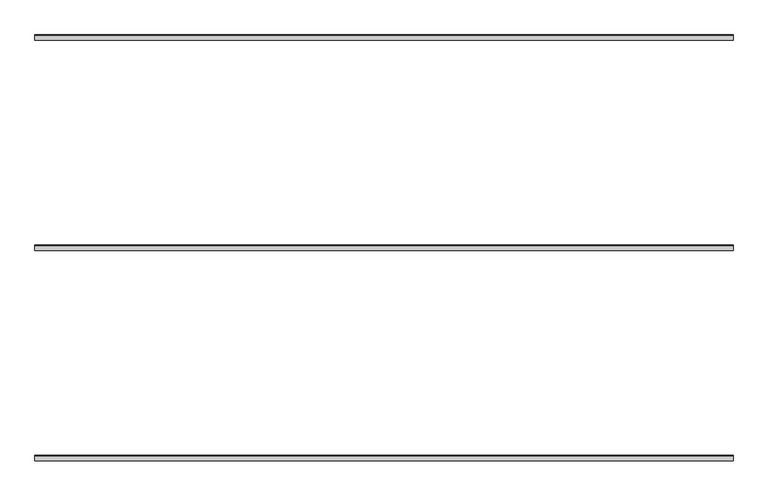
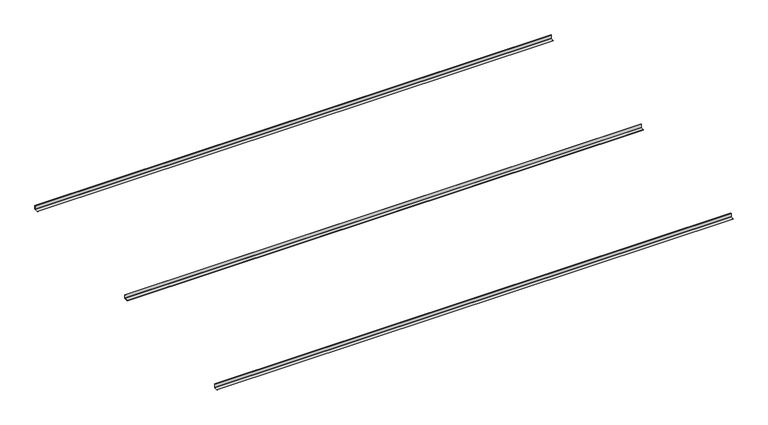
"""IFC4 building model written with IfcOpenShell, lengths in millimetres: proxy geometry, durlum_STARLAM_15 : durlum_STARLAM_15."""

from ifc_helpers import new_model, si_unit, point, frame, frame_2d, origin, place, context, project, spatial, polyline, circle_curve, trimmed, segment, composite_curve, outline, extrude, source, transform, mapped, element, save


def generic_models_6e84f04d(model_context):
    return source(origin(), model_context, "Body", "SweptSolid", [
        extrude(outline(composite_curve([segment(polyline([(-29.9, 3768.0), (-4.0, 3768.0)]), True, "CONTINUOUS"), segment(trimmed(circle_curve(frame_2d((-4.0, 3770.0)), 2.0), [point((-4.0, 3768.0))], [point((-2.0, 3770.0))], True, "CARTESIAN"), True, "CONTINUOUS"), segment(polyline([(-2.0, 3770.0), (-2.0, 3795.9), (0.0, 3795.9), (0.0, 3770.0)]), True, "CONTINUOUS"), segment(trimmed(circle_curve(frame_2d((-4.0, 3770.0)), 4.0), [point((0.0, 3770.0))], [point((-4.0, 3766.0))], False, "CARTESIAN"), True, "CONTINUOUS"), segment(polyline([(-4.0, 3766.0), (-29.9, 3766.0), (-29.9, 3768.0)]), True, "CONTINUOUS")], self_intersect=False)), frame((-1990.0, 0.0, 0.0), z_axis=(1.0, 0.0, 0.0), x_axis=(0.0, 1.0, 0.0)), (0.0, 0.0, 1.0), 3980.0),
        extrude(outline(composite_curve([segment(polyline([(1170.1, 3768.0), (1196.0, 3768.0)]), True, "CONTINUOUS"), segment(trimmed(circle_curve(frame_2d((1196.0, 3770.0)), 2.0), [point((1196.0, 3768.0))], [point((1198.0, 3770.0))], True, "CARTESIAN"), True, "CONTINUOUS"), segment(polyline([(1198.0, 3770.0), (1198.0, 3795.9), (1200.0, 3795.9), (1200.0, 3770.0)]), True, "CONTINUOUS"), segment(trimmed(circle_curve(frame_2d((1196.0, 3770.0)), 4.0), [point((1200.0, 3770.0))], [point((1196.0, 3766.0))], False, "CARTESIAN"), True, "CONTINUOUS"), segment(polyline([(1196.0, 3766.0), (1170.1, 3766.0), (1170.1, 3768.0)]), True, "CONTINUOUS")], self_intersect=False)), frame((-1990.0, 0.0, 0.0), z_axis=(1.0, 0.0, 0.0), x_axis=(0.0, 1.0, 0.0)), (0.0, 0.0, 1.0), 3980.0),
        extrude(outline(composite_curve([segment(polyline([(-1229.9, 3768.0), (-1204.0, 3768.0)]), True, "CONTINUOUS"), segment(trimmed(circle_curve(frame_2d((-1204.0, 3770.0)), 2.0), [point((-1204.0, 3768.0))], [point((-1202.0, 3770.0))], True, "CARTESIAN"), True, "CONTINUOUS"), segment(polyline([(-1202.0, 3770.0), (-1202.0, 3795.9), (-1200.0, 3795.9), (-1200.0, 3770.0)]), True, "CONTINUOUS"), segment(trimmed(circle_curve(frame_2d((-1204.0, 3770.0)), 4.0), [point((-1200.0, 3770.0))], [point((-1204.0, 3766.0))], False, "CARTESIAN"), True, "CONTINUOUS"), segment(polyline([(-1204.0, 3766.0), (-1229.9, 3766.0), (-1229.9, 3768.0)]), True, "CONTINUOUS")], self_intersect=False)), frame((-1990.0, 0.0, 0.0), z_axis=(1.0, 0.0, 0.0), x_axis=(0.0, 1.0, 0.0)), (0.0, 0.0, 1.0), 3980.0),
    ])


if __name__ == "__main__":
    model = new_model("IFC4")
    model_context = context("Model", 3, world=origin())
    ifc_project = project(units=[si_unit("LENGTHUNIT", "METRE", prefix="MILLI")], contexts=[model_context])
    site = spatial("IfcSite", under=ifc_project)
    building = spatial("IfcBuilding", under=site)
    placement = place(None, origin())
    generic_models_shape = generic_models_6e84f04d(model_context)
    element("IfcBuildingElementProxy", 1, Name="durlum_STARLAM_15 : durlum_STARLAM_15", ObjectType="durlum_STARLAM_15 : durlum_STARLAM_15", at=placement, inside=building, context=model_context, shape_type="MappedRepresentation", body=[
        mapped(generic_models_shape, transform((0.0, 0.0, 0.0), x_axis=(1.0, 0.0, 0.0), y_axis=(0.0, 1.0, 0.0), z_axis=(0.0, 0.0, 1.0))),
    ])
    save(model, "model.ifc")
